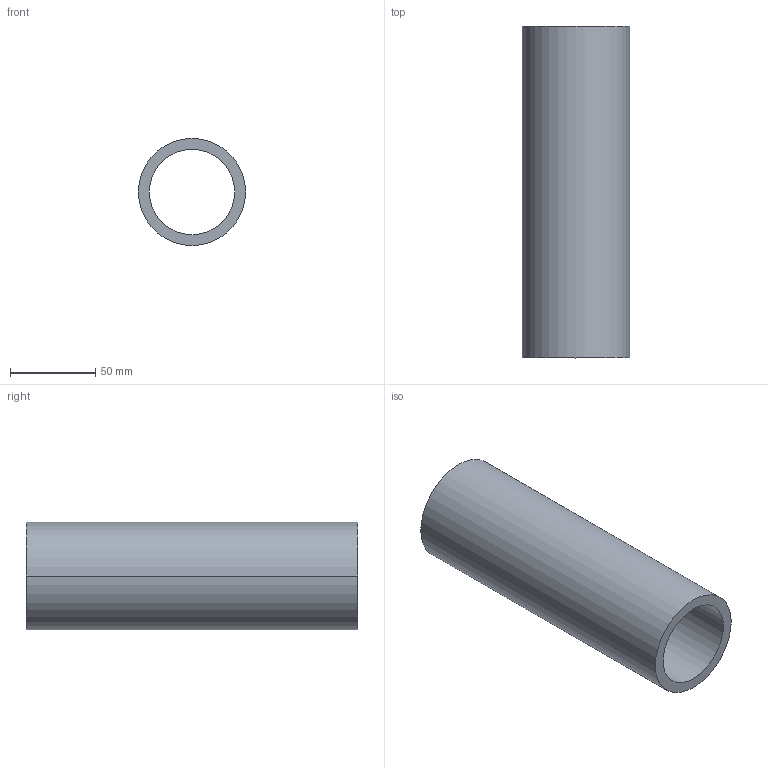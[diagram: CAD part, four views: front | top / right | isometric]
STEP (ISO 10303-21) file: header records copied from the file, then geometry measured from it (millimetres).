
FILE_DESCRIPTION (( 'STEP AP203' ), '1' );
FILE_NAME ('RAILEX STANDARD RXR-IGS.STEP', '2021-06-17T10:57:26', ( '' ), ( '' ), 'SwSTEP 2.0', 'SolidWorks 2020', '' );
FILE_SCHEMA (( 'CONFIG_CONTROL_DESIGN' ));
Length unit declared in the file: millimetre
Products named in the file (1): RAILEX STANDARD RXR-IGS
Bounding box: 63 x 195 x 63 mm (x, y, z)
Volume: 223448.2 mm3; surface area: 71578 mm2
Topology: 1 solids, 1 shells, 6 faces, 12 edges, 8 vertices
Faces by surface type: cylinder 4, plane 2
Entity records: 245 total; most frequent: DIRECTION 34, CARTESIAN_POINT 27, ORIENTED_EDGE 24, AXIS2_PLACEMENT_3D 15, EDGE_CURVE 12, PERSON_AND_ORGANIZATION 8, CIRCLE 8, EDGE_LOOP 8
